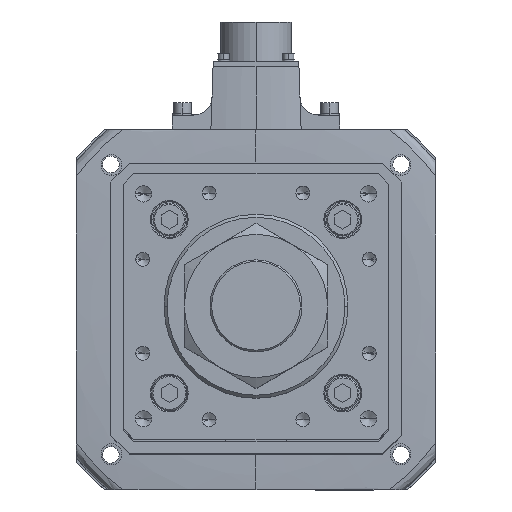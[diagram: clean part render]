
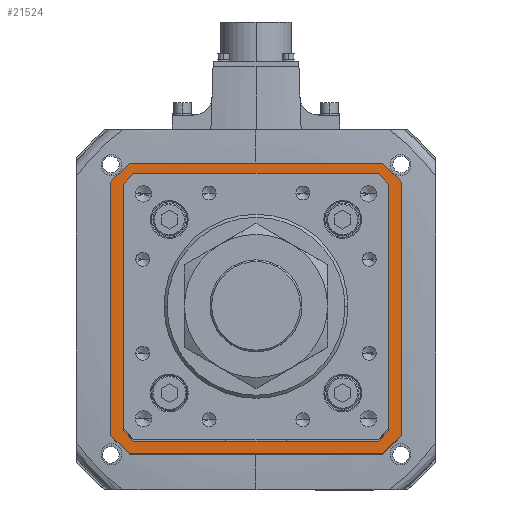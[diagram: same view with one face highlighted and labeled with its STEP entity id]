
A CAD part, top view. The second image highlights one B-rep face of the part: STEP entity #21524.
In plain terms, the highlighted planar face has unit normal (0, 0, 1).
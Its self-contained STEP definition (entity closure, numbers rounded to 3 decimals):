
#119 = CARTESIAN_POINT ( 'NONE',  ( -71., -62., -142. ) ) ;
#166 = EDGE_CURVE ( 'NONE', #36360, #37176, #32570, .T. ) ;
#268 = DIRECTION ( 'NONE',  ( 1., 0., 0. ) ) ;
#672 = EDGE_CURVE ( 'NONE', #45358, #16361, #21142, .T. ) ;
#1087 = CARTESIAN_POINT ( 'NONE',  ( -62., 71., -142. ) ) ;
#1373 = VERTEX_POINT ( 'NONE', #51438 ) ;
#1796 = VECTOR ( 'NONE', #53302, 1000. ) ;
#2110 = CARTESIAN_POINT ( 'NONE',  ( 71., 62., -142. ) ) ;
#2351 = EDGE_CURVE ( 'NONE', #27239, #1373, #26451, .T. ) ;
#2654 = ORIENTED_EDGE ( 'NONE', *, *, #34051, .F. ) ;
#2692 = ORIENTED_EDGE ( 'NONE', *, *, #38494, .F. ) ;
#3711 = LINE ( 'NONE', #23761, #4372 ) ;
#4191 = CARTESIAN_POINT ( 'NONE',  ( 62., 71., -142. ) ) ;
#4372 = VECTOR ( 'NONE', #28817, 1000. ) ;
#4675 = DIRECTION ( 'NONE',  ( 1., 0., 0. ) ) ;
#4929 = CARTESIAN_POINT ( 'NONE',  ( -62., -71., -142. ) ) ;
#5502 = CARTESIAN_POINT ( 'NONE',  ( -62., 71., -142. ) ) ;
#6112 = ORIENTED_EDGE ( 'NONE', *, *, #46520, .F. ) ;
#7215 = VECTOR ( 'NONE', #268, 1000. ) ;
#7774 = LINE ( 'NONE', #4929, #51772 ) ;
#8014 = VERTEX_POINT ( 'NONE', #28348 ) ;
#8067 = ORIENTED_EDGE ( 'NONE', *, *, #46035, .F. ) ;
#8580 = CARTESIAN_POINT ( 'NONE',  ( 58.793, 63., -142. ) ) ;
#8882 = DIRECTION ( 'NONE',  ( 0.707, -0.707, 0. ) ) ;
#9169 = VECTOR ( 'NONE', #22087, 1000. ) ;
#9427 = VERTEX_POINT ( 'NONE', #52403 ) ;
#9674 = FACE_BOUND ( 'NONE', #40779, .T. ) ;
#10068 = VECTOR ( 'NONE', #46562, 1000. ) ;
#10129 = VERTEX_POINT ( 'NONE', #24000 ) ;
#10689 = ORIENTED_EDGE ( 'NONE', *, *, #19012, .F. ) ;
#11657 = VERTEX_POINT ( 'NONE', #8580 ) ;
#12074 = ORIENTED_EDGE ( 'NONE', *, *, #672, .F. ) ;
#12390 = VERTEX_POINT ( 'NONE', #5502 ) ;
#13565 = ORIENTED_EDGE ( 'NONE', *, *, #2351, .T. ) ;
#14002 = DIRECTION ( 'NONE',  ( 0., -1., 0. ) ) ;
#15014 = DIRECTION ( 'NONE',  ( 0.707, 0.707, 0. ) ) ;
#15049 = CARTESIAN_POINT ( 'NONE',  ( -63., 0., -142. ) ) ;
#15276 = CARTESIAN_POINT ( 'NONE',  ( -58.793, -63., -142. ) ) ;
#15798 = LINE ( 'NONE', #44275, #27130 ) ;
#16361 = VERTEX_POINT ( 'NONE', #43023 ) ;
#16714 = CARTESIAN_POINT ( 'NONE',  ( -58.793, 63., -142. ) ) ;
#16972 = EDGE_CURVE ( 'NONE', #46426, #11657, #28863, .T. ) ;
#17448 = LINE ( 'NONE', #1087, #22102 ) ;
#17773 = EDGE_CURVE ( 'NONE', #11657, #8014, #52732, .T. ) ;
#17819 = VECTOR ( 'NONE', #14002, 1000. ) ;
#18215 = DIRECTION ( 'NONE',  ( 0.707, 0.707, 0. ) ) ;
#18461 = EDGE_CURVE ( 'NONE', #1373, #52968, #46097, .T. ) ;
#18573 = CARTESIAN_POINT ( 'NONE',  ( 62., 71., -142. ) ) ;
#19012 = EDGE_CURVE ( 'NONE', #10129, #40345, #24631, .T. ) ;
#19458 = VECTOR ( 'NONE', #4675, 1000. ) ;
#20729 = CARTESIAN_POINT ( 'NONE',  ( 62., -71., -142. ) ) ;
#21142 = LINE ( 'NONE', #48608, #48564 ) ;
#21524 = ADVANCED_FACE ( 'NONE', ( #9674, #35682 ), #34356, .T. ) ;
#22048 = DIRECTION ( 'NONE',  ( 0., 0., 1. ) ) ;
#22087 = DIRECTION ( 'NONE',  ( -0.707, -0.707, 0. ) ) ;
#22102 = VECTOR ( 'NONE', #18215, 1000. ) ;
#23565 = ORIENTED_EDGE ( 'NONE', *, *, #16972, .T. ) ;
#23761 = CARTESIAN_POINT ( 'NONE',  ( -71., 62., -142. ) ) ;
#24000 = CARTESIAN_POINT ( 'NONE',  ( 71., 62., -142. ) ) ;
#24631 = LINE ( 'NONE', #2110, #44661 ) ;
#25516 = LINE ( 'NONE', #40572, #30179 ) ;
#25715 = DIRECTION ( 'NONE',  ( -0.707, -0.707, 0. ) ) ;
#26153 = CARTESIAN_POINT ( 'NONE',  ( 0., 0., -142. ) ) ;
#26300 = CARTESIAN_POINT ( 'NONE',  ( -60.896, -60.896, -142. ) ) ;
#26335 = DIRECTION ( 'NONE',  ( 1., 0., 0. ) ) ;
#26451 = LINE ( 'NONE', #26300, #1796 ) ;
#26644 = VECTOR ( 'NONE', #8882, 1000. ) ;
#26778 = DIRECTION ( 'NONE',  ( -1., 0., 0. ) ) ;
#27130 = VECTOR ( 'NONE', #48355, 1000. ) ;
#27239 = VERTEX_POINT ( 'NONE', #15276 ) ;
#28145 = EDGE_CURVE ( 'NONE', #37176, #27239, #15798, .T. ) ;
#28348 = CARTESIAN_POINT ( 'NONE',  ( 63., 58.793, -142. ) ) ;
#28412 = CARTESIAN_POINT ( 'NONE',  ( 58.793, -63., -142. ) ) ;
#28494 = ORIENTED_EDGE ( 'NONE', *, *, #28145, .T. ) ;
#28543 = AXIS2_PLACEMENT_3D ( 'NONE', #26153, #22048, #26335 ) ;
#28817 = DIRECTION ( 'NONE',  ( 0., 1., 0. ) ) ;
#28863 = LINE ( 'NONE', #42961, #19458 ) ;
#29603 = ORIENTED_EDGE ( 'NONE', *, *, #18461, .T. ) ;
#30179 = VECTOR ( 'NONE', #15014, 1000. ) ;
#30532 = LINE ( 'NONE', #30847, #9169 ) ;
#30847 = CARTESIAN_POINT ( 'NONE',  ( 71., -62., -142. ) ) ;
#31674 = CARTESIAN_POINT ( 'NONE',  ( 63., 0., -142. ) ) ;
#32570 = LINE ( 'NONE', #51247, #50577 ) ;
#33401 = VECTOR ( 'NONE', #53423, 1000. ) ;
#34043 = ORIENTED_EDGE ( 'NONE', *, *, #51006, .F. ) ;
#34051 = EDGE_CURVE ( 'NONE', #40345, #45358, #30532, .T. ) ;
#34256 = CARTESIAN_POINT ( 'NONE',  ( 71., 62., -142. ) ) ;
#34356 = PLANE ( 'NONE',  #28543 ) ;
#35682 = FACE_OUTER_BOUND ( 'NONE', #42991, .T. ) ;
#36360 = VERTEX_POINT ( 'NONE', #49327 ) ;
#36595 = ORIENTED_EDGE ( 'NONE', *, *, #166, .T. ) ;
#36696 = ORIENTED_EDGE ( 'NONE', *, *, #50214, .T. ) ;
#37176 = VERTEX_POINT ( 'NONE', #28412 ) ;
#37323 = CARTESIAN_POINT ( 'NONE',  ( 71., -62., -142. ) ) ;
#37987 = LINE ( 'NONE', #34256, #26644 ) ;
#38033 = EDGE_CURVE ( 'NONE', #8014, #36360, #55154, .T. ) ;
#38494 = EDGE_CURVE ( 'NONE', #16361, #43191, #7774, .T. ) ;
#38823 = EDGE_CURVE ( 'NONE', #43191, #9427, #3711, .T. ) ;
#40345 = VERTEX_POINT ( 'NONE', #37323 ) ;
#40572 = CARTESIAN_POINT ( 'NONE',  ( -60.896, 60.896, -142. ) ) ;
#40779 = EDGE_LOOP ( 'NONE', ( #46391, #36595, #28494, #13565, #29603, #36696, #23565, #50594 ) ) ;
#42961 = CARTESIAN_POINT ( 'NONE',  ( 0., 63., -142. ) ) ;
#42991 = EDGE_LOOP ( 'NONE', ( #6112, #34043, #44877, #2692, #12074, #2654, #10689, #8067 ) ) ;
#43023 = CARTESIAN_POINT ( 'NONE',  ( -62., -71., -142. ) ) ;
#43185 = CARTESIAN_POINT ( 'NONE',  ( -63., 58.793, -142. ) ) ;
#43191 = VERTEX_POINT ( 'NONE', #119 ) ;
#43573 = DIRECTION ( 'NONE',  ( -0.707, 0.707, 0. ) ) ;
#44275 = CARTESIAN_POINT ( 'NONE',  ( 0., -63., -142. ) ) ;
#44661 = VECTOR ( 'NONE', #48357, 1000. ) ;
#44877 = ORIENTED_EDGE ( 'NONE', *, *, #38823, .F. ) ;
#45358 = VERTEX_POINT ( 'NONE', #20729 ) ;
#46035 = EDGE_CURVE ( 'NONE', #52321, #10129, #37987, .T. ) ;
#46097 = LINE ( 'NONE', #15049, #33401 ) ;
#46391 = ORIENTED_EDGE ( 'NONE', *, *, #38033, .T. ) ;
#46426 = VERTEX_POINT ( 'NONE', #16714 ) ;
#46520 = EDGE_CURVE ( 'NONE', #12390, #52321, #51229, .T. ) ;
#46562 = DIRECTION ( 'NONE',  ( 0.707, -0.707, 0. ) ) ;
#46923 = CARTESIAN_POINT ( 'NONE',  ( 60.896, 60.896, -142. ) ) ;
#48355 = DIRECTION ( 'NONE',  ( -1., 0., 0. ) ) ;
#48357 = DIRECTION ( 'NONE',  ( 0., -1., 0. ) ) ;
#48564 = VECTOR ( 'NONE', #26778, 1000. ) ;
#48608 = CARTESIAN_POINT ( 'NONE',  ( 62., -71., -142. ) ) ;
#49327 = CARTESIAN_POINT ( 'NONE',  ( 63., -58.793, -142. ) ) ;
#50214 = EDGE_CURVE ( 'NONE', #52968, #46426, #25516, .T. ) ;
#50577 = VECTOR ( 'NONE', #25715, 1000. ) ;
#50594 = ORIENTED_EDGE ( 'NONE', *, *, #17773, .T. ) ;
#51006 = EDGE_CURVE ( 'NONE', #9427, #12390, #17448, .T. ) ;
#51229 = LINE ( 'NONE', #4191, #7215 ) ;
#51247 = CARTESIAN_POINT ( 'NONE',  ( 60.896, -60.896, -142. ) ) ;
#51438 = CARTESIAN_POINT ( 'NONE',  ( -63., -58.793, -142. ) ) ;
#51772 = VECTOR ( 'NONE', #43573, 1000. ) ;
#52321 = VERTEX_POINT ( 'NONE', #18573 ) ;
#52403 = CARTESIAN_POINT ( 'NONE',  ( -71., 62., -142. ) ) ;
#52732 = LINE ( 'NONE', #46923, #10068 ) ;
#52968 = VERTEX_POINT ( 'NONE', #43185 ) ;
#53302 = DIRECTION ( 'NONE',  ( -0.707, 0.707, 0. ) ) ;
#53423 = DIRECTION ( 'NONE',  ( 0., 1., 0. ) ) ;
#55154 = LINE ( 'NONE', #31674, #17819 ) ;
